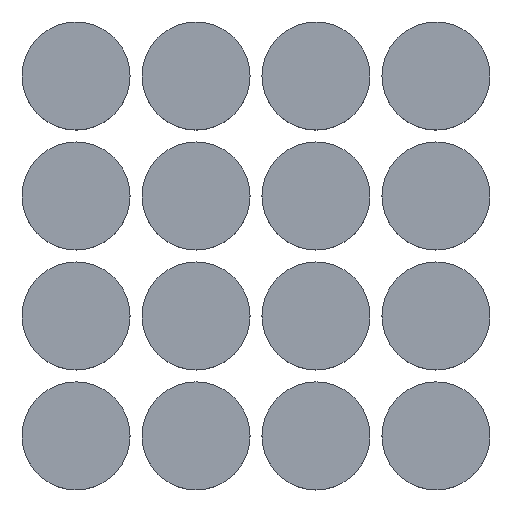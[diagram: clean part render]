
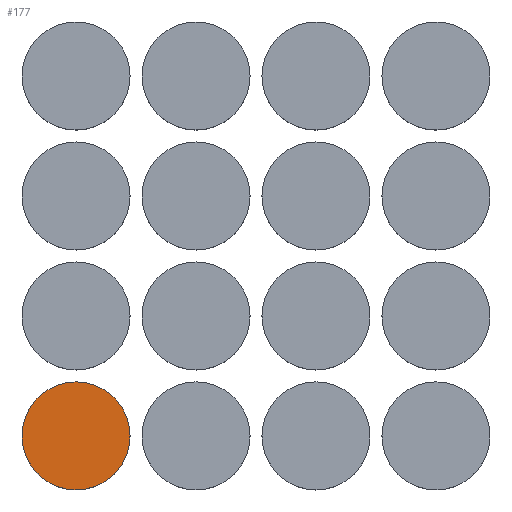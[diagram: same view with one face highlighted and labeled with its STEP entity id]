
A CAD part, top view. The second image highlights one B-rep face of the part: STEP entity #177.
In plain terms, the highlighted planar face has unit normal (0, 0, 1).
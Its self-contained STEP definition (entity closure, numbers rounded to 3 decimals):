
#177 = ADVANCED_FACE ( 'NONE', ( #553 ), #793, .T. ) ;
#203 = DIRECTION ( 'NONE',  ( 1., 0., 0. ) ) ;
#209 = CARTESIAN_POINT ( 'NONE',  ( -11.55, -16.5, 7.1 ) ) ;
#269 = CARTESIAN_POINT ( 'NONE',  ( -21.45, -16.5, 7.1 ) ) ;
#363 = CIRCLE ( 'NONE', #1204, 4.95 ) ;
#391 = EDGE_LOOP ( 'NONE', ( #543, #928 ) ) ;
#404 = DIRECTION ( 'NONE',  ( 1., 0., 0. ) ) ;
#459 = CIRCLE ( 'NONE', #862, 4.95 ) ;
#494 = EDGE_CURVE ( 'NONE', #1293, #632, #459, .T. ) ;
#542 = DIRECTION ( 'NONE',  ( 1., 0., 0. ) ) ;
#543 = ORIENTED_EDGE ( 'NONE', *, *, #494, .T. ) ;
#550 = DIRECTION ( 'NONE',  ( 0., 0., 1. ) ) ;
#553 = FACE_OUTER_BOUND ( 'NONE', #391, .T. ) ;
#606 = CARTESIAN_POINT ( 'NONE',  ( -16.5, -16.5, 7.1 ) ) ;
#614 = CARTESIAN_POINT ( 'NONE',  ( -16.5, -16.5, 7.1 ) ) ;
#632 = VERTEX_POINT ( 'NONE', #209 ) ;
#793 = PLANE ( 'NONE',  #1462 ) ;
#862 = AXIS2_PLACEMENT_3D ( 'NONE', #614, #961, #404 ) ;
#928 = ORIENTED_EDGE ( 'NONE', *, *, #971, .T. ) ;
#961 = DIRECTION ( 'NONE',  ( 0., 0., 1. ) ) ;
#971 = EDGE_CURVE ( 'NONE', #632, #1293, #363, .T. ) ;
#1204 = AXIS2_PLACEMENT_3D ( 'NONE', #606, #550, #542 ) ;
#1245 = DIRECTION ( 'NONE',  ( 0., 0., 1. ) ) ;
#1293 = VERTEX_POINT ( 'NONE', #269 ) ;
#1333 = CARTESIAN_POINT ( 'NONE',  ( -16.5, -16.5, 7.1 ) ) ;
#1462 = AXIS2_PLACEMENT_3D ( 'NONE', #1333, #1245, #203 ) ;
